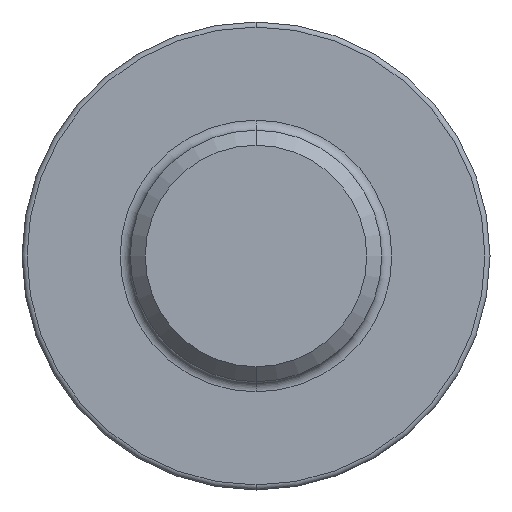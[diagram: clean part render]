
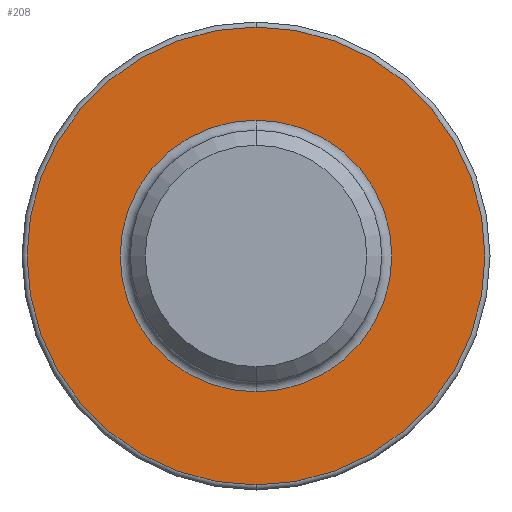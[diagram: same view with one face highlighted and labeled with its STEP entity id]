
A CAD part, front view. The second image highlights one B-rep face of the part: STEP entity #208.
In plain terms, the highlighted planar face has unit normal (0, -1, 0).
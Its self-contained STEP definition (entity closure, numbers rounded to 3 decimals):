
#1 = ORIENTED_EDGE ( 'NONE', *, *, #566, .T. ) ;
#12 = ORIENTED_EDGE ( 'NONE', *, *, #452, .T. ) ;
#16 = AXIS2_PLACEMENT_3D ( 'NONE', #784, #227, #717 ) ;
#33 = CARTESIAN_POINT ( 'NONE',  ( 0., -2.7, 0. ) ) ;
#74 = DIRECTION ( 'NONE',  ( 0., 1., 0. ) ) ;
#107 = ORIENTED_EDGE ( 'NONE', *, *, #643, .T. ) ;
#145 = CARTESIAN_POINT ( 'NONE',  ( 0., -2.7, 0. ) ) ;
#164 = CARTESIAN_POINT ( 'NONE',  ( 0., -2.7, -4.55 ) ) ;
#173 = PLANE ( 'NONE',  #16 ) ;
#176 = DIRECTION ( 'NONE',  ( 0., 0., 1. ) ) ;
#188 = EDGE_CURVE ( 'NONE', #339, #220, #832, .T. ) ;
#205 = ORIENTED_EDGE ( 'NONE', *, *, #188, .T. ) ;
#208 = ADVANCED_FACE ( 'NONE', ( #711, #773 ), #173, .F. ) ;
#220 = VERTEX_POINT ( 'NONE', #164 ) ;
#227 = DIRECTION ( 'NONE',  ( 0., 1., 0. ) ) ;
#264 = AXIS2_PLACEMENT_3D ( 'NONE', #320, #501, #176 ) ;
#320 = CARTESIAN_POINT ( 'NONE',  ( 0., -2.7, 0. ) ) ;
#337 = DIRECTION ( 'NONE',  ( 0., -1., 0. ) ) ;
#339 = VERTEX_POINT ( 'NONE', #677 ) ;
#412 = CIRCLE ( 'NONE', #724, 2.7 ) ;
#452 = EDGE_CURVE ( 'NONE', #601, #650, #535, .T. ) ;
#469 = DIRECTION ( 'NONE',  ( 0., 0., 1. ) ) ;
#472 = CARTESIAN_POINT ( 'NONE',  ( 0., -2.7, 2.7 ) ) ;
#501 = DIRECTION ( 'NONE',  ( 0., 1., 0. ) ) ;
#503 = DIRECTION ( 'NONE',  ( 0., -1., 0. ) ) ;
#535 = CIRCLE ( 'NONE', #264, 2.7 ) ;
#566 = EDGE_CURVE ( 'NONE', #220, #339, #637, .T. ) ;
#572 = DIRECTION ( 'NONE',  ( 0., 0., 1. ) ) ;
#601 = VERTEX_POINT ( 'NONE', #472 ) ;
#630 = EDGE_LOOP ( 'NONE', ( #12, #107 ) ) ;
#637 = CIRCLE ( 'NONE', #663, 4.55 ) ;
#643 = EDGE_CURVE ( 'NONE', #650, #601, #412, .T. ) ;
#650 = VERTEX_POINT ( 'NONE', #809 ) ;
#663 = AXIS2_PLACEMENT_3D ( 'NONE', #145, #337, #469 ) ;
#677 = CARTESIAN_POINT ( 'NONE',  ( 0., -2.7, 4.55 ) ) ;
#711 = FACE_BOUND ( 'NONE', #630, .T. ) ;
#717 = DIRECTION ( 'NONE',  ( 0., 0., 1. ) ) ;
#724 = AXIS2_PLACEMENT_3D ( 'NONE', #735, #74, #858 ) ;
#735 = CARTESIAN_POINT ( 'NONE',  ( 0., -2.7, 0. ) ) ;
#760 = EDGE_LOOP ( 'NONE', ( #205, #1 ) ) ;
#773 = FACE_OUTER_BOUND ( 'NONE', #760, .T. ) ;
#784 = CARTESIAN_POINT ( 'NONE',  ( 2.5, -2.7, 0. ) ) ;
#809 = CARTESIAN_POINT ( 'NONE',  ( 0., -2.7, -2.7 ) ) ;
#832 = CIRCLE ( 'NONE', #847, 4.55 ) ;
#847 = AXIS2_PLACEMENT_3D ( 'NONE', #33, #503, #572 ) ;
#858 = DIRECTION ( 'NONE',  ( 0., 0., 1. ) ) ;
